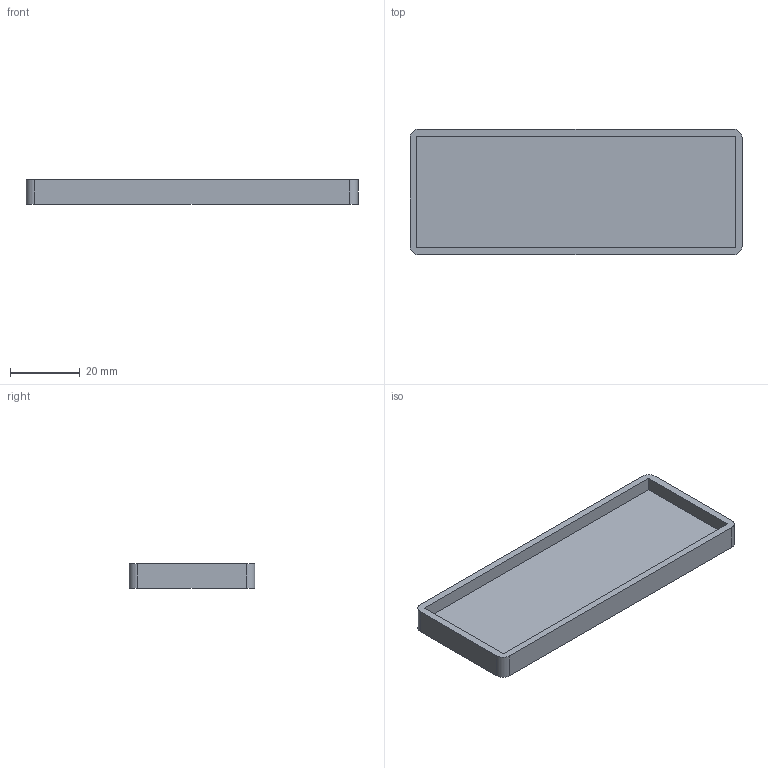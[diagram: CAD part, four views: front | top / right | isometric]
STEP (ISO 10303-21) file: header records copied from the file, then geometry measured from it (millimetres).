
FILE_DESCRIPTION(/* description */ (''),/* implementation_level */ '2;1');
FILE_NAME(/* name */ 'BM8C v1.step',/* time_stamp */ '2024-07-04T14:24:32+05:30',/* author */ (''),/* organization */ (''),/* preprocessor_version */ 'ST-DEVELOPER v20',/* originating_system */ 'Autodesk Translation Framework v13.14.0.145',/* authorisation */ '');
FILE_SCHEMA (('AUTOMOTIVE_DESIGN { 1 0 10303 214 3 1 1 }'));
Length unit declared in the file: millimetre
Products named in the file (1): BM8C
Bounding box: 95 x 36 x 7 mm (x, y, z)
Volume: 12254.4 mm3; surface area: 9617.2 mm2
Topology: 1 solids, 1 shells, 15 faces, 36 edges, 24 vertices
Faces by surface type: plane 11, cylinder 4
Entity records: 471 total; most frequent: DIRECTION 76, CARTESIAN_POINT 76, ORIENTED_EDGE 72, EDGE_CURVE 36, LINE 28, VECTOR 28, VERTEX_POINT 24, AXIS2_PLACEMENT_3D 24
